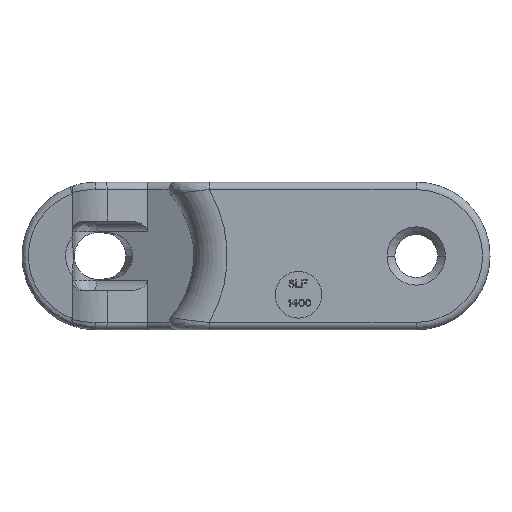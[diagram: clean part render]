
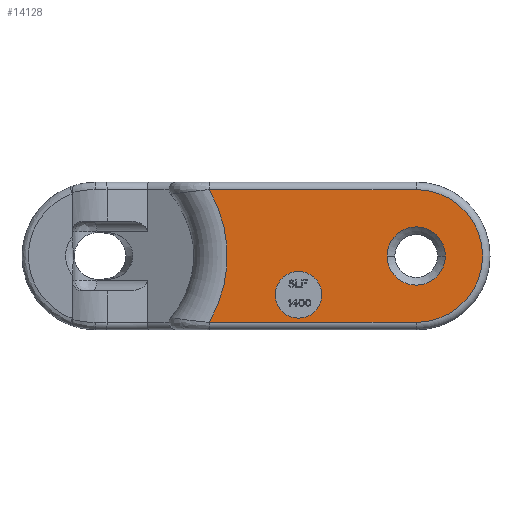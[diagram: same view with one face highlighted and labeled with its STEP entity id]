
A CAD part, front view. The second image highlights one B-rep face of the part: STEP entity #14128.
In plain terms, the highlighted planar face has unit normal (0, -1, 0).
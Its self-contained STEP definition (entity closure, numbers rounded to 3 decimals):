
#3085=CARTESIAN_POINT('',(48.208,-25.,17.1));
#3151=DIRECTION('',(-1.,0.,0.));
#3152=VECTOR('',#3151,53.292);
#3153=CARTESIAN_POINT('',(101.5,-25.,17.1));
#3154=LINE('',#3153,#3152);
#3165=CARTESIAN_POINT('',(101.5,-25.,0.));
#3166=DIRECTION('',(0.,-1.,0.));
#3167=DIRECTION('',(0.,0.,-1.));
#3168=AXIS2_PLACEMENT_3D('',#3165,#3166,#3167);
#3725=DIRECTION('',(1.,0.,0.));
#3726=VECTOR('',#3725,53.292);
#3727=CARTESIAN_POINT('',(48.208,-25.,-17.1));
#3728=LINE('',#3727,#3726);
#3729=CARTESIAN_POINT('',(18.982,-25.,0.));
#3730=DIRECTION('',(0.,1.,0.));
#3731=DIRECTION('',(0.863,0.,0.505));
#3732=AXIS2_PLACEMENT_3D('',#3729,#3730,#3731);
#3734=CARTESIAN_POINT('',(71.2,-25.,-10.));
#3735=DIRECTION('',(0.,-1.,0.));
#3736=DIRECTION('',(1.,0.,0.));
#3737=AXIS2_PLACEMENT_3D('',#3734,#3735,#3736);
#3739=CARTESIAN_POINT('',(71.2,-25.,-10.));
#3740=DIRECTION('',(0.,-1.,0.));
#3741=DIRECTION('',(-1.,0.,0.));
#3742=AXIS2_PLACEMENT_3D('',#3739,#3740,#3741);
#3744=CARTESIAN_POINT('',(101.5,-25.,0.));
#3745=DIRECTION('',(0.,-1.,0.));
#3746=DIRECTION('',(1.,0.,0.));
#3747=AXIS2_PLACEMENT_3D('',#3744,#3745,#3746);
#3762=CARTESIAN_POINT('',(101.5,-25.,0.));
#3763=DIRECTION('',(0.,-1.,0.));
#3764=DIRECTION('',(-1.,0.,0.));
#3765=AXIS2_PLACEMENT_3D('',#3762,#3763,#3764);
#7045=CARTESIAN_POINT('',(94.,-25.,0.));
#7046=CARTESIAN_POINT('',(109.,-25.,0.));
#7047=VERTEX_POINT('',#7045);
#7048=VERTEX_POINT('',#7046);
#7865=VERTEX_POINT('',#3085);
#7869=CARTESIAN_POINT('',(101.5,-25.,17.1));
#7870=VERTEX_POINT('',#7869);
#7873=CARTESIAN_POINT('',(101.5,-25.,-17.1));
#7874=VERTEX_POINT('',#7873);
#7877=CARTESIAN_POINT('',(48.208,-25.,-17.1));
#7878=VERTEX_POINT('',#7877);
#7885=CARTESIAN_POINT('',(77.2,-25.,-10.));
#7886=CARTESIAN_POINT('',(65.2,-25.,-10.));
#7887=VERTEX_POINT('',#7885);
#7888=VERTEX_POINT('',#7886);
#14105=CARTESIAN_POINT('',(120.5,-25.,-19.));
#14106=DIRECTION('',(0.,1.,0.));
#14107=DIRECTION('',(-1.,0.,0.));
#14108=AXIS2_PLACEMENT_3D('',#14105,#14106,#14107);
#14109=PLANE('',#14108);
#14110=ORIENTED_EDGE('',*,*,#13312,.F.);
#14111=ORIENTED_EDGE('',*,*,#13327,.F.);
#14112=ORIENTED_EDGE('',*,*,#14099,.F.);
#14113=ORIENTED_EDGE('',*,*,#13216,.F.);
#14114=EDGE_LOOP('',(#14110,#14111,#14112,#14113));
#14115=FACE_OUTER_BOUND('',#14114,.F.);
#14117=ORIENTED_EDGE('',*,*,#14116,.T.);
#14119=ORIENTED_EDGE('',*,*,#14118,.T.);
#14120=EDGE_LOOP('',(#14117,#14119));
#14121=FACE_BOUND('',#14120,.F.);
#14123=ORIENTED_EDGE('',*,*,#14122,.T.);
#14125=ORIENTED_EDGE('',*,*,#14124,.T.);
#14126=EDGE_LOOP('',(#14123,#14125));
#14127=FACE_BOUND('',#14126,.F.);
#14128=ADVANCED_FACE('',(#14115,#14121,#14127),#14109,.F.);
#3169=CIRCLE('',#3168,17.1);
#3733=CIRCLE('',#3732,33.861);
#3738=CIRCLE('',#3737,6.);
#3743=CIRCLE('',#3742,6.);
#3748=CIRCLE('',#3747,7.5);
#3766=CIRCLE('',#3765,7.5);
#13216=EDGE_CURVE('',#7865,#7878,#3733,.T.);
#13312=EDGE_CURVE('',#7870,#7865,#3154,.T.);
#13327=EDGE_CURVE('',#7874,#7870,#3169,.T.);
#14099=EDGE_CURVE('',#7878,#7874,#3728,.T.);
#14116=EDGE_CURVE('',#7048,#7047,#3748,.T.);
#14118=EDGE_CURVE('',#7047,#7048,#3766,.T.);
#14122=EDGE_CURVE('',#7887,#7888,#3738,.T.);
#14124=EDGE_CURVE('',#7888,#7887,#3743,.T.);
